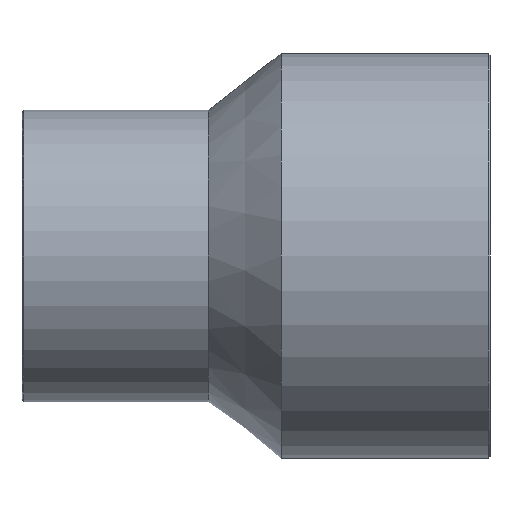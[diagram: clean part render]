
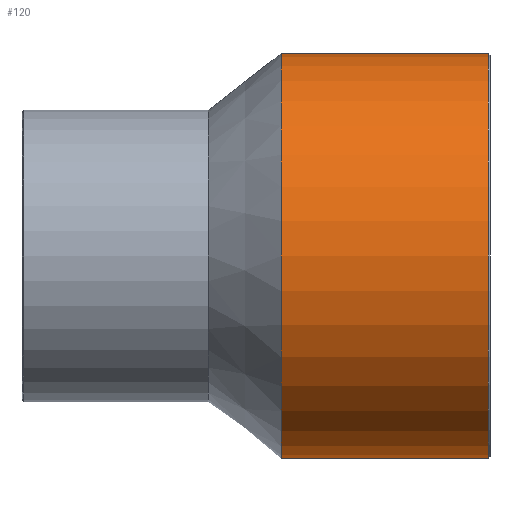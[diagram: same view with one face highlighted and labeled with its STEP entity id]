
A CAD part, front view. The second image highlights one B-rep face of the part: STEP entity #120.
In plain terms, the highlighted cylindrical face has radius 125 mm (diameter 250 mm), a full revolution.
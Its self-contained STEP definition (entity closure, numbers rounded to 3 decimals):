
#26=ORIENTED_EDGE('',*,*,#46,.T.);
#27=ORIENTED_EDGE('',*,*,#47,.F.);
#46=EDGE_CURVE('',#56,#56,#66,.T.);
#47=EDGE_CURVE('',#57,#57,#67,.T.);
#56=VERTEX_POINT('',#208);
#57=VERTEX_POINT('',#210);
#66=CIRCLE('',#144,125.);
#67=CIRCLE('',#145,125.);
#76=EDGE_LOOP('',(#26));
#77=EDGE_LOOP('',(#27));
#96=FACE_BOUND('',#76,.T.);
#97=FACE_BOUND('',#77,.T.);
#116=CYLINDRICAL_SURFACE('',#143,125.);
#120=ADVANCED_FACE('',(#96,#97),#116,.T.);
#143=AXIS2_PLACEMENT_3D('',#206,#165,#166);
#144=AXIS2_PLACEMENT_3D('',#207,#167,#168);
#145=AXIS2_PLACEMENT_3D('',#209,#169,#170);
#165=DIRECTION('',(-1.,0.,0.));
#166=DIRECTION('',(0.,0.,1.));
#167=DIRECTION('',(-1.,0.,0.));
#168=DIRECTION('',(0.,0.,1.));
#169=DIRECTION('',(-1.,0.,0.));
#170=DIRECTION('',(0.,0.,1.));
#206=CARTESIAN_POINT('',(-60.,0.,0.));
#207=CARTESIAN_POINT('',(150.5,0.,0.));
#208=CARTESIAN_POINT('',(150.5,0.,125.));
#209=CARTESIAN_POINT('',(22.5,0.,0.));
#210=CARTESIAN_POINT('',(22.5,0.,125.));
